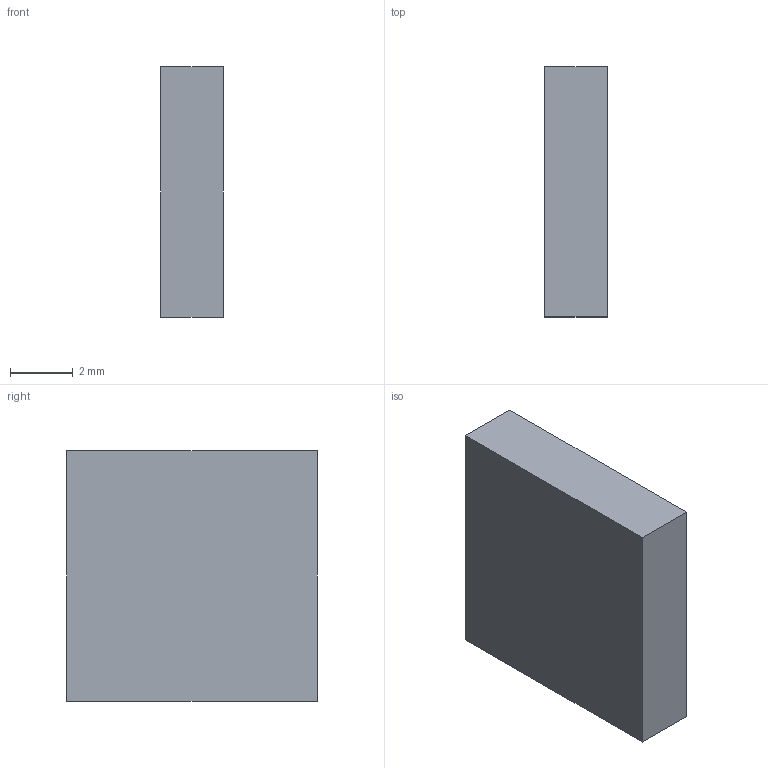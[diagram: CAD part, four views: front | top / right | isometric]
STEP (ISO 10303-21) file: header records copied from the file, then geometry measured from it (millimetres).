
FILE_DESCRIPTION(('Open CASCADE Model'),'2;1');
FILE_NAME('Open CASCADE Shape Model','2026-11-08T07:33:07',('Author'),( 'Open CASCADE'),'Open CASCADE STEP processor 7.8','Open CASCADE 7.8' ,'Unknown');
FILE_SCHEMA(('AUTOMOTIVE_DESIGN { 1 0 10303 214 1 1 1 1 }'));
Length unit declared in the file: millimetre
Products named in the file (1): Open CASCADE STEP translator 7.8 2
Bounding box: 2 x 8 x 8 mm (x, y, z)
Volume: 122.5 mm3; surface area: 197.3 mm2
Topology: 1 solids, 1 shells, 8 faces, 15 edges, 10 vertices
Faces by surface type: plane 7, cylinder 1
Full cylindrical faces by diameter (mm): 4.2 x1
Entity records: 406 total; most frequent: DIRECTION 65, CARTESIAN_POINT 64, LINE 41, VECTOR 41, ORIENTED_EDGE 30, PCURVE 30, DEFINITIONAL_REPRESENTATION 30, EDGE_CURVE 15
